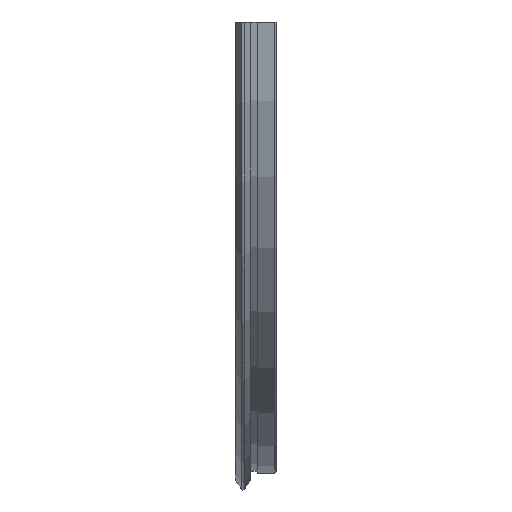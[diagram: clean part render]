
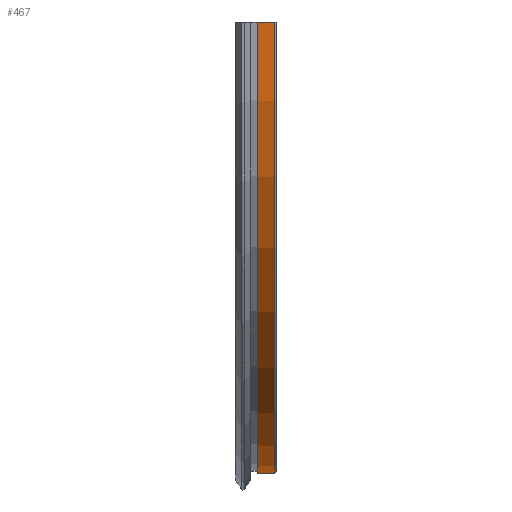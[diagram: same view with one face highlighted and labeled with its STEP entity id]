
A CAD part, left-side view. The second image highlights one B-rep face of the part: STEP entity #467.
In plain terms, the highlighted cylindrical face has radius 135 mm (diameter 270 mm), a partial arc.
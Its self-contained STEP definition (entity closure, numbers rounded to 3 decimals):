
#467 = ADVANCED_FACE( '', ( #1511 ), #1512, .T. );
#1511 = FACE_OUTER_BOUND( '', #2788, .T. );
#1512 = CYLINDRICAL_SURFACE( '', #2789, 135. );
#2788 = EDGE_LOOP( '', ( #7178, #7179, #7180, #7181 ) );
#2789 = AXIS2_PLACEMENT_3D( '', #7182, #7183, #7184 );
#7178 = ORIENTED_EDGE( '', *, *, #10024, .F. );
#7179 = ORIENTED_EDGE( '', *, *, #10552, .T. );
#7180 = ORIENTED_EDGE( '', *, *, #10550, .T. );
#7181 = ORIENTED_EDGE( '', *, *, #10017, .T. );
#7182 = CARTESIAN_POINT( '', ( 0., 0., 0. ) );
#7183 = DIRECTION( '', ( 0., 1., 0. ) );
#7184 = DIRECTION( '', ( 0., 0., -1. ) );
#10017 = EDGE_CURVE( '', #13057, #13055, #13058, .T. );
#10024 = EDGE_CURVE( '', #13070, #13055, #13071, .T. );
#10550 = EDGE_CURVE( '', #13629, #13057, #13630, .T. );
#10552 = EDGE_CURVE( '', #13070, #13629, #13632, .F. );
#13055 = VERTEX_POINT( '', #17804 );
#13057 = VERTEX_POINT( '', #17809 );
#13058 = LINE( '', #17810, #17811 );
#13070 = VERTEX_POINT( '', #17841 );
#13071 = CIRCLE( '', #17842, 135. );
#13629 = VERTEX_POINT( '', #18429 );
#13630 = CIRCLE( '', #18430, 135. );
#13632 = LINE( '', #18433, #18434 );
#17804 = CARTESIAN_POINT( '', ( 134.996, 0.5, -1. ) );
#17809 = CARTESIAN_POINT( '', ( 134.996, 5.75, -1. ) );
#17810 = CARTESIAN_POINT( '', ( 134.996, 0., -1. ) );
#17811 = VECTOR( '', #19505, 1000. );
#17841 = CARTESIAN_POINT( '', ( -134.996, 0.5, -1. ) );
#17842 = AXIS2_PLACEMENT_3D( '', #19509, #19510, #19511 );
#18429 = CARTESIAN_POINT( '', ( -134.996, 5.75, -1. ) );
#18430 = AXIS2_PLACEMENT_3D( '', #21050, #21051, #21052 );
#18433 = CARTESIAN_POINT( '', ( -134.996, 0., -1. ) );
#18434 = VECTOR( '', #21054, 1000. );
#19505 = DIRECTION( '', ( 0., -1., 0. ) );
#19509 = CARTESIAN_POINT( '', ( 0., 0.5, 0. ) );
#19510 = DIRECTION( '', ( 0., -1., 0. ) );
#19511 = DIRECTION( '', ( 0., 0., -1. ) );
#21050 = CARTESIAN_POINT( '', ( 0., 5.75, 0. ) );
#21051 = DIRECTION( '', ( 0., -1., 0. ) );
#21052 = DIRECTION( '', ( 0., 0., -1. ) );
#21054 = DIRECTION( '', ( 0., -1., 0. ) );
